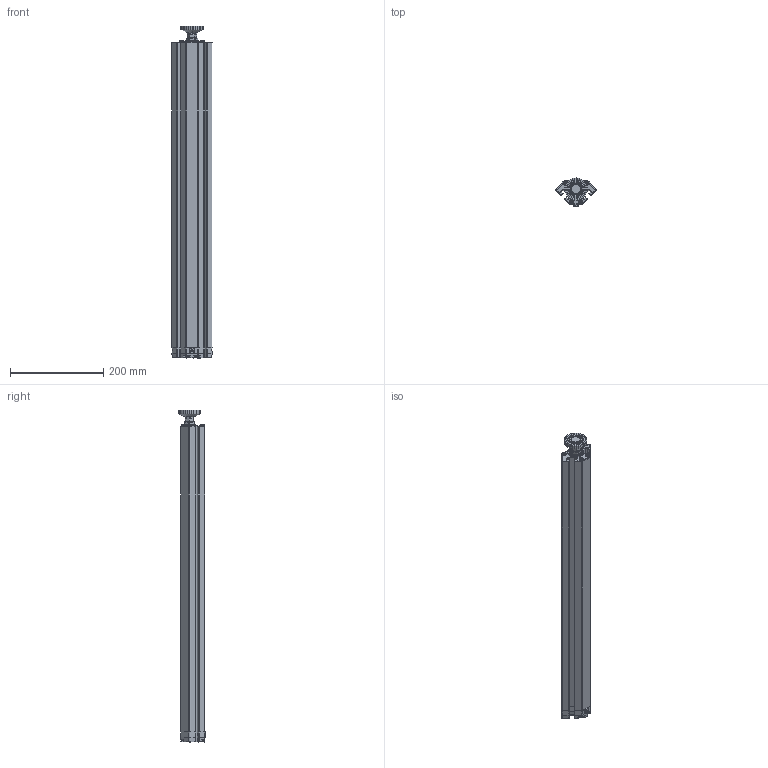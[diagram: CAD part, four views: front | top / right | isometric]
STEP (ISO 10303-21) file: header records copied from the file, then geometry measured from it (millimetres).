
FILE_DESCRIPTION (( 'STEP AP203' ), '1' );
FILE_NAME ('MLS-00040 Leg.STEP', '2014-03-05T21:25:21', ( '' ), ( '' ), 'SwSTEP 2.0', 'SolidWorks 2014', '' );
FILE_SCHEMA (( 'CONFIG_CONTROL_DESIGN' ));
Length unit declared in the file: millimetre
Products named in the file (1): MLS-00040 Leg
Bounding box: 85.9 x 59.38 x 710.96 mm (x, y, z)
Volume: 787268.9 mm3; surface area: 607221.9 mm2
Topology: 21 solids, 29 shells, 2907 faces, 7331 edges, 4568 vertices
Faces by surface type: cylinder 1005, plane 829, bspline 655, torus 212, cone 190, sphere 16
Entity records: 110534 total; most frequent: CARTESIAN_POINT 46239, ORIENTED_EDGE 14602, DIRECTION 11972, EDGE_CURVE 7301, AXIS2_PLACEMENT_3D 4624, VERTEX_POINT 4568, EDGE_LOOP 3073, FACE_OUTER_BOUND 2907
